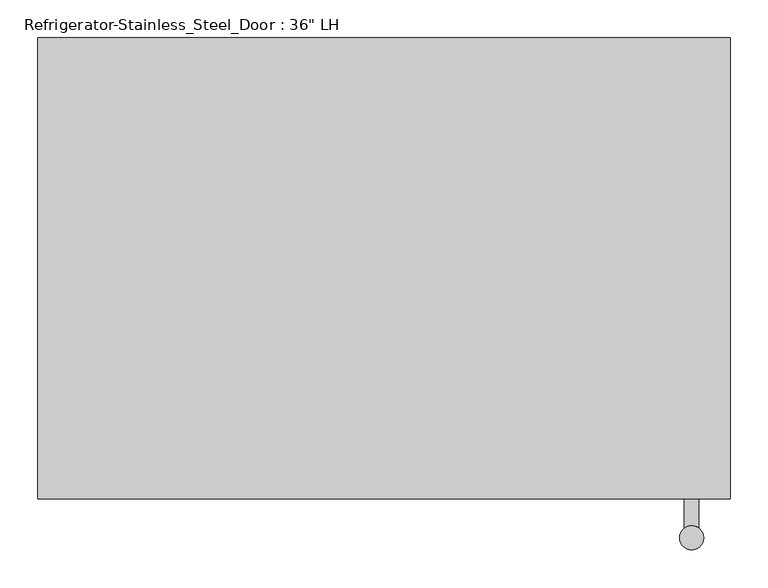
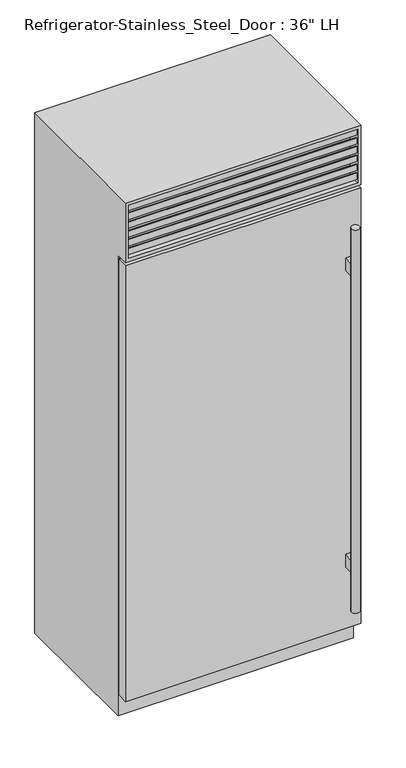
"""IFC4 building model written with IfcOpenShell, lengths in millimetres: proxy geometry."""

from ifc_helpers import new_model, si_unit, frame, origin, place, context, project, spatial, polyline, circle_curve, ellipse_curve, outline, extrude, faceted_brep, source, transform, mapped, element, save
from ifc_brep_helpers import plane_surface, cylinder_surface, advanced_brep


def proxy_425da594(model_context):
    return source(origin(), model_context, "Body", "SolidModel", [
        extrude(outline(polyline([(-457.2, -666.75), (457.2, -666.75), (457.2, -711.2), (-457.2, -711.2), (-457.2, -666.75)])), frame((0.0, 0.0, 88.9), z_axis=(0.0, 0.0, 1.0), x_axis=(1.0, 0.0, 0.0)), (0.0, 0.0, 1.0), 1787.525),
        faceted_brep([(457.2, -711.2, 2133.6), (-457.2, -711.2, 2133.6), (-457.2, -711.2, 1889.125), (457.2, -711.2, 1889.125), (444.5, -711.2, 2120.9), (444.5, -711.2, 1901.825), (-444.5, -711.2, 1901.825), (-444.5, -711.2, 2120.9), (457.2, -101.6, 2133.6), (-457.2, -101.6, 2133.6), (-457.2, -101.6, 0.0), (-457.2, -660.4, 0.0), (-457.2, -660.4, 1889.125), (457.2, -660.4, 1889.125), (457.2, -660.4, 0.0), (457.2, -101.6, 0.0), (-444.5, -660.4, 2120.9), (444.5, -660.4, 2120.9), (-444.5, -660.4, 1901.825), (444.5, -660.4, 1901.825)], [[[0, 1, 2, 3], [4, 5, 6, 7]], [[1, 0, 8, 9]], [[2, 1, 9, 10, 11, 12]], [[3, 2, 12, 13]], [[8, 0, 3, 13, 14, 15]], [[4, 7, 16, 17]], [[7, 6, 18, 16]], [[6, 5, 19, 18]], [[5, 4, 17, 19]], [[15, 14, 11, 10]], [[9, 8, 15, 10]], [[17, 16, 18, 19]], [[11, 14, 13, 12]]]),
        extrude(outline(polyline([(-660.4, 1901.825), (-708.025, 1914.5860803), (-708.025, 1939.9860803), (-704.85, 1939.9860803), (-704.85, 1917.1368938), (-660.4, 1905.2265522), (-660.4, 1901.825)])), frame((-444.5, 0.0, 0.0), z_axis=(1.0, 0.0, 0.0), x_axis=(0.0, 1.0, 0.0)), (0.0, 0.0, 1.0), 889.0),
        extrude(outline(polyline([(-660.4, 1938.0077839), (-708.025, 1950.7688642), (-708.025, 1976.1688642), (-704.85, 1976.1688642), (-704.85, 1953.3196777), (-660.4, 1941.4093361), (-660.4, 1938.0077839)])), frame((-444.5, 0.0, 0.0), z_axis=(1.0, 0.0, 0.0), x_axis=(0.0, 1.0, 0.0)), (0.0, 0.0, 1.0), 889.0),
        extrude(outline(polyline([(-660.4, 1974.1905679), (-708.025, 1986.9516482), (-708.025, 2012.3516482), (-704.85, 2012.3516482), (-704.85, 1989.5024616), (-660.4, 1977.59212), (-660.4, 1974.1905679)])), frame((-444.5, 0.0, 0.0), z_axis=(1.0, 0.0, 0.0), x_axis=(0.0, 1.0, 0.0)), (0.0, 0.0, 1.0), 889.0),
        extrude(outline(polyline([(-660.4, 2010.3733518), (-708.025, 2023.1344321), (-708.025, 2048.5344321), (-704.85, 2048.5344321), (-704.85, 2025.6852456), (-660.4, 2013.774904), (-660.4, 2010.3733518)])), frame((-444.5, 0.0, 0.0), z_axis=(1.0, 0.0, 0.0), x_axis=(0.0, 1.0, 0.0)), (0.0, 0.0, 1.0), 889.0),
        extrude(outline(polyline([(-660.4, 2046.5561358), (-708.025, 2059.3172161), (-708.025, 2084.7172161), (-704.85, 2084.7172161), (-704.85, 2061.8680295), (-660.4, 2049.9576879), (-660.4, 2046.5561358)])), frame((-444.5, 0.0, 0.0), z_axis=(1.0, 0.0, 0.0), x_axis=(0.0, 1.0, 0.0)), (0.0, 0.0, 1.0), 889.0),
        extrude(outline(polyline([(-660.4, 2082.7389197), (-708.025, 2095.5), (-708.025, 2120.9), (-704.85, 2120.9), (-704.85, 2098.0508135), (-660.4, 2086.1404719), (-660.4, 2082.7389197)])), frame((-444.5, 0.0, 0.0), z_axis=(1.0, 0.0, 0.0), x_axis=(0.0, 1.0, 0.0)), (0.0, 0.0, 1.0), 889.0),
        advanced_brep(
        [(-454.025, -666.75, 1873.25), (-454.025, -660.4, 1873.25), (-454.025, -660.4, 92.075), (-454.025, -666.75, 92.075), (-450.85, -660.4, 1870.075), (-450.85, -666.75, 1870.075), (-450.85, -666.75, 95.25), (-450.85, -660.4, 95.25), (454.025, -660.4, 92.075), (454.025, -666.75, 92.075), (450.85, -666.75, 95.25), (450.85, -660.4, 95.25), (454.025, -660.4, 1873.25), (454.025, -666.75, 1873.25), (450.85, -666.75, 1870.075), (450.85, -660.4, 1870.075)],
        [
            (0, 1, ellipse_curve(frame((-454.025, -663.575, 1873.25), z_axis=(-0.7071067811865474, 0.0, -0.7071067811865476), x_axis=(-0.7071067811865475, 0.0, 0.7071067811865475)), 4.4901281, 3.175)),
            (1, 2),
            (2, 3, ellipse_curve(frame((-454.025, -663.575, 92.075), z_axis=(-0.7071067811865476, 0.0, 0.7071067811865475), x_axis=(0.7071067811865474, 0.0, 0.7071067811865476)), 4.4901281, 3.175)),
            (3, 0),
            (4, 5),
            (5, 6),
            (6, 7),
            (7, 4),
            (2, 8),
            (8, 9, ellipse_curve(frame((454.025, -663.575, 92.075), z_axis=(-0.7071067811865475, 0.0, -0.7071067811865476), x_axis=(-0.7071067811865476, 0.0, 0.7071067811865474)), 4.4901281, 3.175)),
            (9, 3),
            (6, 10),
            (10, 11),
            (11, 7),
            (8, 12),
            (12, 13, ellipse_curve(frame((454.025, -663.575, 1873.25), z_axis=(0.7071067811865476, 0.0, -0.7071067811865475), x_axis=(-0.7071067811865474, 0.0, -0.7071067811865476)), 4.4901281, 3.175)),
            (13, 9),
            (10, 14),
            (14, 15),
            (15, 11),
            (1, 12),
            (15, 4),
            (0, 13),
            (5, 14),
        ],
        [
            cylinder_surface(frame((-454.025, -663.575, 1876.425), z_axis=(0.0, 0.0, 1.0), x_axis=(0.0, -1.0, 0.0)), 3.175),
            plane_surface(frame((-450.85, -666.75, 1870.075), z_axis=(1.0, 0.0, 0.0), x_axis=(0.0, 0.0, -1.0))),
            cylinder_surface(frame((-457.2, -663.575, 92.075), z_axis=(-1.0, 0.0, 0.0), x_axis=(0.0, -1.0, 0.0)), 3.175),
            plane_surface(frame((-450.85, -666.75, 95.25), z_axis=(0.0, 0.0, 1.0), x_axis=(1.0, 0.0, 0.0))),
            cylinder_surface(frame((454.025, -663.575, 88.9), z_axis=(0.0, 0.0, -1.0), x_axis=(0.0, -1.0, 0.0)), 3.175),
            plane_surface(frame((450.85, -666.75, 95.25), z_axis=(-1.0, 0.0, 0.0), x_axis=(0.0, 0.0, 1.0))),
            plane_surface(frame((450.85, -660.4, 1870.075), z_axis=(0.0, 1.0, 0.0), x_axis=(-1.0, 0.0, 0.0))),
            cylinder_surface(frame((457.2, -663.575, 1873.25), z_axis=(1.0, 0.0, 0.0), x_axis=(0.0, -1.0, 0.0)), 3.175),
            plane_surface(frame((454.025, -666.75, 1873.25), z_axis=(0.0, -1.0, 0.0), x_axis=(-1.0, 0.0, 0.0))),
            plane_surface(frame((450.85, -666.75, 1870.075), z_axis=(0.0, 0.0, -1.0), x_axis=(-1.0, 0.0, 0.0))),
        ],
        [
            (0, [[1, 2, 3, 4]]),
            (1, [[5, 6, 7, 8]]),
            (2, [[-3, 9, 10, 11]]),
            (3, [[-7, 12, 13, 14]]),
            (4, [[-10, 15, 16, 17]]),
            (5, [[-13, 18, 19, 20]]),
            (6, [[21, -15, -9, -2], [-14, -20, 22, -8]]),
            (7, [[-16, -21, -1, 23]]),
            (8, [[-11, -17, -23, -4], [24, -18, -12, -6]]),
            (9, [[-19, -24, -5, -22]]),
        ],
    ),
        advanced_brep(
        [(415.925, -711.2, 1609.725), (415.925, -711.2, 1558.925), (396.875, -711.2, 1558.925), (396.875, -711.2, 1609.725), (415.925, -711.2, 393.7), (415.925, -711.2, 342.9), (396.875, -711.2, 342.9), (396.875, -711.2, 393.7), (415.925, -749.6741958, 1609.725), (415.925, -749.6741958, 1558.925), (396.875, -749.6741958, 1558.925), (396.875, -749.6741958, 1609.725), (415.925, -749.6741958, 393.7), (415.925, -749.6741958, 342.9), (396.875, -749.6741958, 342.9), (396.875, -749.6741958, 393.7), (390.525, -762.3741958, 1762.125), (422.275, -762.3741958, 1762.125), (390.525, -762.3741958, 190.5), (422.275, -762.3741958, 190.5)],
        [
            (0, 1),
            (1, 2),
            (2, 3),
            (3, 0),
            (4, 5),
            (5, 6),
            (6, 7),
            (7, 4),
            (0, 8),
            (8, 9),
            (9, 1),
            (9, 10, circle_curve(frame((406.4, -762.3741958, 1558.925), z_axis=(0.0, 0.0, 1.0), x_axis=(1.0, 0.0, 0.0)), 15.875)),
            (10, 2),
            (10, 11),
            (11, 3),
            (11, 8, circle_curve(frame((406.4, -762.3741958, 1609.725), z_axis=(0.0, 0.0, -1.0), x_axis=(1.0, 0.0, 0.0)), 15.875)),
            (4, 12),
            (12, 13),
            (13, 5),
            (13, 14, circle_curve(frame((406.4, -762.3741958, 342.9), z_axis=(0.0, 0.0, 1.0), x_axis=(1.0, 0.0, 0.0)), 15.875)),
            (14, 6),
            (14, 15),
            (15, 7),
            (15, 12, circle_curve(frame((406.4, -762.3741958, 393.7), z_axis=(0.0, 0.0, -1.0), x_axis=(1.0, 0.0, 0.0)), 15.875)),
            (16, 17, circle_curve(frame((406.4, -762.3741958, 1762.125), z_axis=(0.0, 0.0, 1.0), x_axis=(1.0, 0.0, 0.0)), 15.875)),
            (17, 16, circle_curve(frame((406.4, -762.3741958, 1762.125), z_axis=(0.0, 0.0, 1.0), x_axis=(1.0, 0.0, 0.0)), 15.875)),
            (18, 19, circle_curve(frame((406.4, -762.3741958, 190.5), z_axis=(0.0, 0.0, -1.0), x_axis=(1.0, 0.0, 0.0)), 15.875)),
            (19, 18, circle_curve(frame((406.4, -762.3741958, 190.5), z_axis=(0.0, 0.0, -1.0), x_axis=(1.0, 0.0, 0.0)), 15.875)),
            (16, 18),
            (19, 17),
        ],
        [
            plane_surface(frame((415.925, -711.2, 1609.725), z_axis=(0.0, 1.0, 0.0), x_axis=(0.0, 0.0, -1.0))),
            plane_surface(frame((415.925, -711.2, 1609.725), z_axis=(1.0, 0.0, 0.0), x_axis=(0.0, -1.0, 0.0))),
            plane_surface(frame((415.925, -711.2, 1558.925), z_axis=(0.0, 0.0, -1.0), x_axis=(0.0, -1.0, 0.0))),
            plane_surface(frame((396.875, -711.2, 1558.925), z_axis=(-1.0, 0.0, 0.0), x_axis=(0.0, -1.0, 0.0))),
            plane_surface(frame((396.875, -711.2, 1609.725), z_axis=(0.0, 0.0, 1.0), x_axis=(0.0, -1.0, 0.0))),
            plane_surface(frame((415.925, -711.2, 393.7), z_axis=(1.0, 0.0, 0.0), x_axis=(0.0, -1.0, 0.0))),
            plane_surface(frame((415.925, -711.2, 342.9), z_axis=(0.0, 0.0, -1.0), x_axis=(0.0, -1.0, 0.0))),
            plane_surface(frame((396.875, -711.2, 342.9), z_axis=(-1.0, 0.0, 0.0), x_axis=(0.0, -1.0, 0.0))),
            plane_surface(frame((396.875, -711.2, 393.7), z_axis=(0.0, 0.0, 1.0), x_axis=(0.0, -1.0, 0.0))),
            plane_surface(frame((422.275, -762.3741958, 1762.125), z_axis=(0.0, 0.0, 1.0), x_axis=(0.0, 1.0, 0.0))),
            plane_surface(frame((422.275, -762.3741958, 190.5), z_axis=(0.0, 0.0, -1.0), x_axis=(0.0, -1.0, 0.0))),
            cylinder_surface(frame((406.4, -762.3741958, 190.5), z_axis=(0.0, 0.0, 1.0), x_axis=(1.0, 0.0, 0.0)), 15.875),
        ],
        [
            (0, [[1, 2, 3, 4]]),
            (0, [[5, 6, 7, 8]]),
            (1, [[-1, 9, 10, 11]]),
            (2, [[-2, -11, 12, 13]]),
            (3, [[-3, -13, 14, 15]]),
            (4, [[-4, -15, 16, -9]]),
            (5, [[-5, 17, 18, 19]]),
            (6, [[-6, -19, 20, 21]]),
            (7, [[-7, -21, 22, 23]]),
            (8, [[-8, -23, 24, -17]]),
            (9, [[25, 26]]),
            (10, [[27, 28]]),
            (11, [[-25, 29, -28, 30]]),
            (11, [[-26, -30, -27, -29], [-10, -16, -14, -12], [-18, -24, -22, -20]]),
        ],
    ),
    ])


if __name__ == "__main__":
    model = new_model("IFC4")
    model_context = context("Model", 3, world=origin())
    ifc_project = project(units=[si_unit("LENGTHUNIT", "METRE", prefix="MILLI")], contexts=[model_context])
    site = spatial("IfcSite", under=ifc_project)
    building = spatial("IfcBuilding", under=site)
    placement = place(None, origin())
    proxy_shape = proxy_425da594(model_context)
    element("IfcBuildingElementProxy", 1, Name="Refrigerator-Stainless_Steel_Door : 36\" LH", ObjectType="Refrigerator-Stainless_Steel_Door : 36\" LH", at=placement, inside=building, context=model_context, shape_type="MappedRepresentation", body=[
        mapped(proxy_shape, transform((0.0, 0.0, 0.0), x_axis=(1.0, 0.0, 0.0), y_axis=(0.0, 1.0, 0.0), z_axis=(0.0, 0.0, 1.0))),
    ])
    save(model, "model.ifc")
